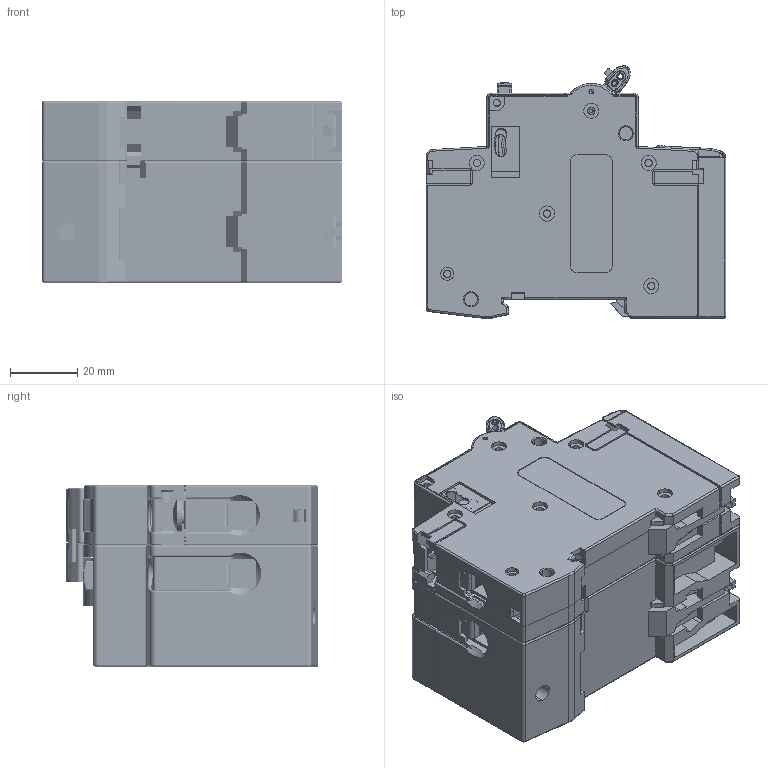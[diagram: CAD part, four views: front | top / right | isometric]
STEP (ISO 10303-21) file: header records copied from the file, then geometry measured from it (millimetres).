
FILE_DESCRIPTION (( 'STEP AP203' ), '1' );
FILE_NAME ('KNLE2-63H装配体1P+N.STEP', '2020-10-12T03:07:53', ( '微软用户' ), ( '微软中国' ), 'SwSTEP 2.0', 'SolidWorks 2015', '' );
FILE_SCHEMA (( 'CONFIG_CONTROL_DESIGN' ));
Length unit declared in the file: millimetre
Products named in the file (20): 質蚚C65S3諉盄啣; BMS（32.7）32-04卡板; C65忒梟; 儂殤耜啣; 1P欶; 忒梟1.1; 縐諶; 儂殤裔; 忒梟杶; 儂殤菁; 2P價釱; 偌聽; 諉盄啣; 2P裔赽; jie_xian_ban_r-knb2-s; 借用C65现代款接线柱; 2017C65菁; KNLE2-63H蚾饜极1P+N; 質蚚C65珋測遴蹟隊; 2017C65裔
Assembly tree (27 placements, depth 2):
  KNLE2-63H蚾饜极1P+N
    2P價釱
    2P裔赽
    2017C65菁
    2017C65裔
    BMS（32.7）32-04卡板  x2
    儂殤耜啣
    忒梟1.1
    儂殤裔
    儂殤菁
    諉盄啣  x2
    借用C65现代款接线柱  x4
    質蚚C65珋測遴蹟隊  x4
    質蚚C65S3諉盄啣
    C65忒梟
    1P欶
    縐諶
    忒梟杶
    偌聽
    jie_xian_ban_r-knb2-s
Bounding box: 89 x 74.93 x 53.8 mm (x, y, z)
Volume: 87125.7 mm3; surface area: 124433.9 mm2
Topology: 28 solids, 33 shells, 5198 faces, 14348 edges, 9335 vertices
Faces by surface type: plane 3430, cylinder 1379, bspline 166, cone 130, torus 80, sphere 13
Entity records: 163890 total; most frequent: CARTESIAN_POINT 45106, ORIENTED_EDGE 25632, DIRECTION 22284, EDGE_CURVE 12816, LINE 9450, VECTOR 9450, VERTEX_POINT 8350, AXIS2_PLACEMENT_3D 6417
